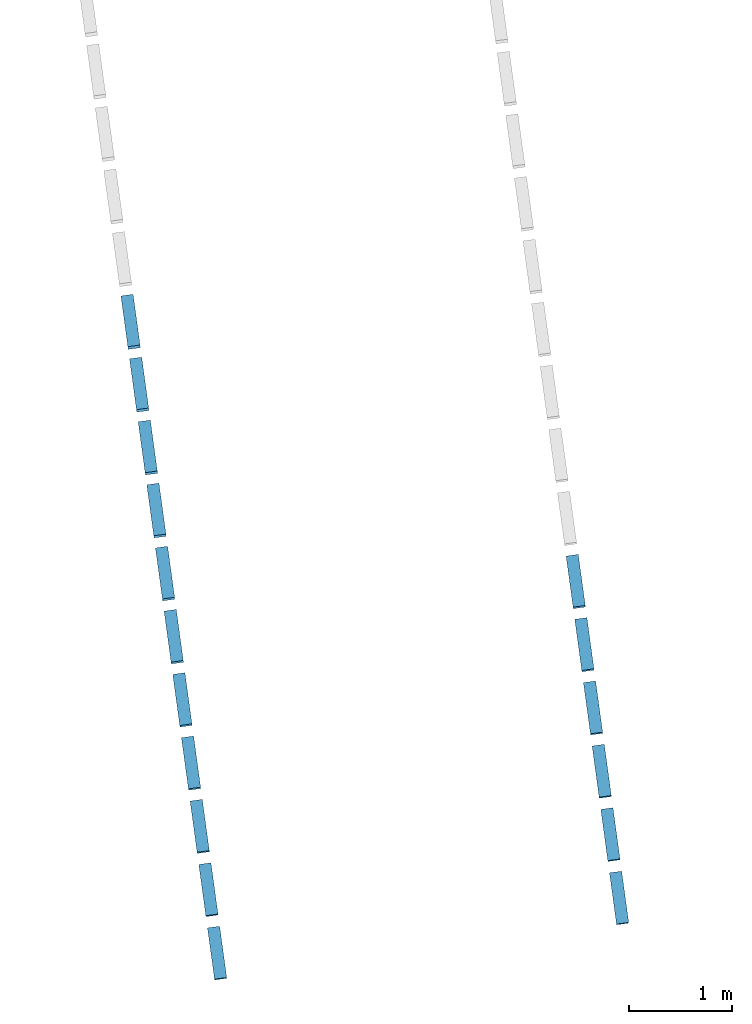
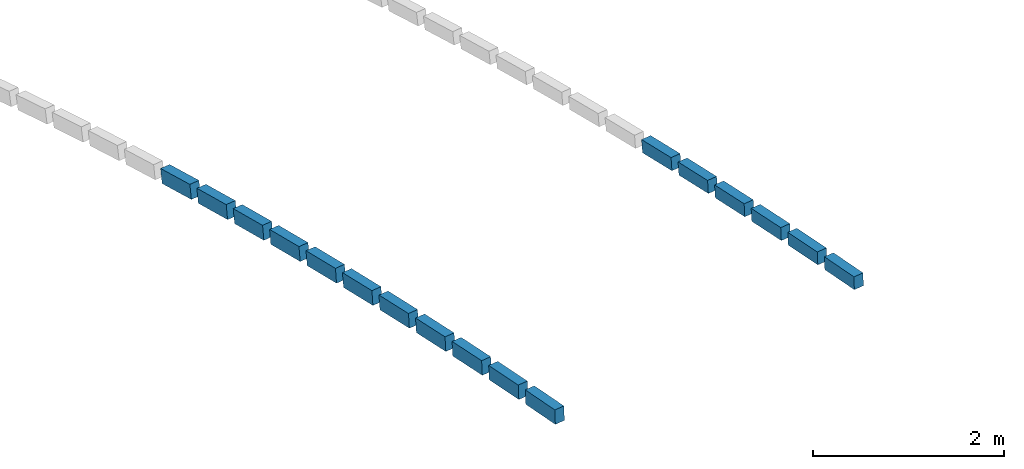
# One storey, part 1 of 6: 17 beams.
"""IFC2X3 building model written with IfcOpenShell, lengths in metres."""

import ifcopenshell
import ifcopenshell.guid

model = None  # the IFC model being written
_history = None  # IfcOwnerHistory: only IFC2X3 demands one
_inside = {}  # id of a spatial element -> (the spatial element, [elements in it])
_under = {}  # id of a project, library or spatial element -> (it, [spatial elements below it])
_declared = {}  # id of a project -> (the project, [libraries it declares])
_typed = {}  # id of a type object -> (the type object, [elements of that type])
_made_of = {}  # id of a material, layer set ... -> (it, [elements and type objects made of it])


def new_model(schema):
    """Start an empty IFC model of exactly this schema.

    Asked for "IFC4X3", IfcOpenShell would pick the latest addendum, in which some entities
    have other attributes; the version numbers below select the first issue.
    IFC2X3 requires an IfcOwnerHistory on every rooted entity: one is made here for all.
    """
    global model, _history
    if schema == "IFC4X3":
        model = ifcopenshell.file(schema_version=(4, 3, 0, 0))
    else:
        model = ifcopenshell.file(schema=schema)
    _inside.clear()
    _under.clear()
    _declared.clear()
    _typed.clear()
    _made_of.clear()
    _history = None
    if model.schema == "IFC2X3":
        org = make("IfcOrganization", Name="unknown")
        user = make(
            "IfcPersonAndOrganization",
            ThePerson=make("IfcPerson", FamilyName="unknown"),
            TheOrganization=org,
        )
        app = make(
            "IfcApplication",
            ApplicationDeveloper=org,
            Version="unknown",
            ApplicationFullName="unknown",
            ApplicationIdentifier="unknown",
        )
        _history = make(
            "IfcOwnerHistory",
            OwningUser=user,
            OwningApplication=app,
            ChangeAction="ADDED",
            CreationDate=0,
        )
    return model


def make(cls, **values):
    """One entity of the class cls with the attributes given. An attribute that is None is left unset."""
    return model.create_entity(
        cls, **{name: value for name, value in values.items() if value is not None}
    )


def entity(cls, *values):
    """Any entity or typed value of the class cls, its attributes in the order of the schema. None: left unset."""
    e = model.create_entity(cls)
    for i, value in enumerate(values):
        if value is not None:
            e[i] = value
    return e


def rooted(cls, **values):
    """An entity with a GlobalId (a new one), such as an element, a storey or a relation."""
    return make(cls, GlobalId=ifcopenshell.guid.new(), OwnerHistory=_history, **values)


def si_unit(unit_type, name, prefix=None):
    """IfcSIUnit, for example si_unit("LENGTHUNIT", "METRE", prefix="MILLI")."""
    return make("IfcSIUnit", UnitType=unit_type, Prefix=prefix, Name=name)


def converted_unit(unit_type, name, factor, base, dimensions=None, offset=None):
    """IfcConversionBasedUnit, such as the inch: factor (a typed value) times the base unit."""
    return make(
        "IfcConversionBasedUnit"
        if offset is None
        else "IfcConversionBasedUnitWithOffset",
        ConversionOffset=offset,
        Dimensions=None
        if dimensions is None
        else entity("IfcDimensionalExponents", *dimensions),
        UnitType=unit_type,
        Name=name,
        ConversionFactor=make(
            "IfcMeasureWithUnit", ValueComponent=factor, UnitComponent=base
        ),
    )


def derived_unit(unit_type, elements):
    """IfcDerivedUnit: a product of units, each with its exponent."""
    return make(
        "IfcDerivedUnit",
        Elements=[
            make("IfcDerivedUnitElement", Unit=unit, Exponent=power)
            for unit, power in elements
        ],
        UnitType=unit_type,
    )


def money_unit(currency):
    """IfcMonetaryUnit."""
    return make("IfcMonetaryUnit", Currency=currency)


def assignment(units):
    """IfcUnitAssignment: the units of a project."""
    return None if units is None else make("IfcUnitAssignment", Units=units)


def point(xyz):
    """IfcCartesianPoint."""
    return None if xyz is None else make("IfcCartesianPoint", Coordinates=xyz)


def direction(xyz):
    """IfcDirection."""
    return None if xyz is None else make("IfcDirection", DirectionRatios=xyz)


def frame(location, z_axis=None, x_axis=None):
    """IfcAxis2Placement3D, a coordinate frame: its origin and axes. An axis left out is left unset."""
    return make(
        "IfcAxis2Placement3D",
        Location=point(location),
        Axis=direction(z_axis),
        RefDirection=direction(x_axis),
    )


def frame_2d(location, x_axis=None):
    """IfcAxis2Placement2D, a coordinate frame in the plane: its origin and x axis."""
    return make(
        "IfcAxis2Placement2D", Location=point(location), RefDirection=direction(x_axis)
    )


def origin_with_axes():
    """The frame at (0, 0, 0) with the z axis (0, 0, 1) and the x axis (1, 0, 0) written out."""
    return frame((0.0, 0.0, 0.0), z_axis=(0.0, 0.0, 1.0), x_axis=(1.0, 0.0, 0.0))


def place(relative_to, where):
    """IfcLocalPlacement: puts the frame where relative to a parent placement (None: the world)."""
    return make(
        "IfcLocalPlacement", PlacementRelTo=relative_to, RelativePlacement=where
    )


def context(
    kind, dimensions, precision=None, world=None, true_north=None, identifier=None
):
    """IfcGeometricRepresentationContext, for example the 3D "Model" context."""
    return make(
        "IfcGeometricRepresentationContext",
        ContextIdentifier=identifier,
        ContextType=kind,
        CoordinateSpaceDimension=dimensions,
        Precision=precision,
        WorldCoordinateSystem=world,
        TrueNorth=true_north,
    )


def subcontext(parent, identifier, kind, view, scale=None):
    """IfcGeometricRepresentationSubContext, for example "Body" below "Model"."""
    return make(
        "IfcGeometricRepresentationSubContext",
        ContextIdentifier=identifier,
        ContextType=kind,
        ParentContext=parent,
        TargetScale=scale,
        TargetView=view,
    )


def project(units=None, contexts=None):
    """IfcProject with its units and contexts."""
    return rooted(
        "IfcProject",
        Name="project",
        RepresentationContexts=contexts,
        UnitsInContext=assignment(units),
    )


def spatial(cls, under=None, at=None, **own):
    """A site, building, storey or space (cls), placed at a placement, below another one or the project."""
    s = rooted(cls, ObjectPlacement=at, **own)
    if under is not None:
        _under.setdefault(under.id(), (under, []))[1].append(s)
    return s


def profile(cls, at=None, kind="AREA", **sizes):
    """A parametric profile (cls). Its sizes go by their IFC names, for example OverallWidth=200.0."""
    return make(cls, ProfileType=kind, Position=at, **sizes)


def rectangle(**sizes):
    """IfcRectangleProfileDef."""
    return profile("IfcRectangleProfileDef", **sizes)


def extrude(swept, where, along, depth):
    """IfcExtrudedAreaSolid: the profile swept, set in the frame where, extruded along a direction by depth."""
    return make(
        "IfcExtrudedAreaSolid",
        SweptArea=swept,
        Position=where,
        ExtrudedDirection=direction(along),
        Depth=depth,
    )


def boolean(op, a, b):
    """IfcBooleanResult of two solids."""
    return make("IfcBooleanResult", Operator=op, FirstOperand=a, SecondOperand=b)


def faces_of(points, faces, orient=None, outer=None):
    """IfcFace entities. A face is a list of loops; a loop is a list of indices into points, from 0.

    orient and outer hold one flag for each loop. By default every Orientation is true, the
    first loop of a face is its IfcFaceOuterBound and the others are IfcFaceBound.
    """
    made = []
    for i, loops in enumerate(faces):
        bounds = []
        for j, loop in enumerate(loops):
            is_outer = j == 0 if outer is None else outer[i][j]
            bounds.append(
                make(
                    "IfcFaceOuterBound" if is_outer else "IfcFaceBound",
                    Bound=make("IfcPolyLoop", Polygon=[points[k] for k in loop]),
                    Orientation=True if orient is None else orient[i][j],
                )
            )
        made.append(make("IfcFace", Bounds=bounds))
    return made


def faceted_brep(points, faces, orient=None, outer=None, voids=None):
    """IfcFacetedBrep: a solid bounded by flat faces; with voids (closed shells), ...WithVoids."""
    shared = [point(p) for p in points]
    hull = make("IfcClosedShell", CfsFaces=faces_of(shared, faces, orient, outer))
    if voids is None:
        return make("IfcFacetedBrep", Outer=hull)
    return make(
        "IfcFacetedBrepWithVoids",
        Outer=hull,
        Voids=[
            make(cls, CfsFaces=faces_of(shared, fs, o, b)) for cls, fs, o, b in voids
        ],
    )


def shape(context_of_items, identifier, shape_type, items):
    """IfcShapeRepresentation: the items that make up one representation, for example the "Body"."""
    return make(
        "IfcShapeRepresentation",
        ContextOfItems=context_of_items,
        RepresentationIdentifier=identifier,
        RepresentationType=shape_type,
        Items=items,
    )


def material(Name=None, Category=None):
    """IfcMaterial."""
    return make("IfcMaterial", Name=Name, Category=Category)


def made_of(thing, what):
    """Note that an element or type object is made of a material, layer set ...; save() writes the relation."""
    if what is not None:
        _made_of.setdefault(what.id(), (what, []))[1].append(thing)
    return thing


def type_object(cls, material=None, **own):
    """A type object (cls), such as IfcWallType, which elements share."""
    return made_of(rooted(cls, **own), material)


def element(
    cls,
    number,
    at=None,
    inside=None,
    cuts=None,
    type_object=None,
    material=None,
    context=None,
    identifier="Body",
    shape_type=None,
    held_by="IfcProductDefinitionShape",
    body=None,
    shapes=None,
    **own,
):
    """One element of the class cls, such as IfcWall. Its Tag is "e" and its number.

    at: its placement. inside: the storey or other place that contains it. cuts: it is an
    opening in that element (IfcRelVoidsElement). A single representation is given by context,
    identifier, shape_type and body (its items); several are given by shapes. held_by: the class
    of the entity that holds the representations. save() writes the other relations.
    """
    e = rooted(cls, Tag="e%d" % number, ObjectPlacement=at, **own)
    if body is not None:
        shapes = [shape(context, identifier, shape_type, body)]
    if shapes is not None:
        e.Representation = make(held_by, Representations=shapes)
    if inside is not None:
        _inside.setdefault(inside.id(), (inside, []))[1].append(e)
    if cuts is not None:
        rooted(
            "IfcRelVoidsElement", RelatingBuildingElement=cuts, RelatedOpeningElement=e
        )
    if type_object is not None:
        _typed.setdefault(type_object.id(), (type_object, []))[1].append(e)
    return made_of(e, material)


def aggregate(whole, parts):
    """IfcRelAggregates: a whole, such as a stair, and the parts it consists of."""
    return rooted("IfcRelAggregates", RelatingObject=whole, RelatedObjects=parts)


def save(model, path):
    """Write the relations noted so far, then the file.

    IfcRelAggregates (storeys below a building ...), IfcRelContainedInSpatialStructure (elements
    in a storey), IfcRelDefinesByType, IfcRelAssociatesMaterial and IfcRelDeclares: one each for
    every whole, place, type object, material and project.
    """
    for whole, parts in _under.values():
        aggregate(whole, parts)
    for where, things in _inside.values():
        rooted(
            "IfcRelContainedInSpatialStructure",
            RelatedElements=things,
            RelatingStructure=where,
        )
    for kind, things in _typed.values():
        rooted("IfcRelDefinesByType", RelatedObjects=things, RelatingType=kind)
    for what, things in _made_of.values():
        rooted("IfcRelAssociatesMaterial", RelatedObjects=things, RelatingMaterial=what)
    for by, libraries in _declared.values():
        rooted("IfcRelDeclares", RelatingContext=by, RelatedDefinitions=libraries)
    model.write(path)


model = new_model("IFC2X3")

# Units and contexts
model_context = context("Model", 3, precision=1e-05, world=origin_with_axes(), true_north=direction((0.0, 1.0)))
body_context = subcontext(model_context, "Body", "Model", "MODEL_VIEW")
ifc_project = project(units=[si_unit("LENGTHUNIT", "METRE"), si_unit("AREAUNIT", "SQUARE_METRE"), si_unit("VOLUMEUNIT", "CUBIC_METRE"), converted_unit("PLANEANGLEUNIT", "DEGREE", entity("IfcPlaneAngleMeasure", 0.0174532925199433), si_unit("PLANEANGLEUNIT", "RADIAN"), dimensions=[0, 0, 0, 0, 0, 0, 0]), money_unit("EUR"), converted_unit("TIMEUNIT", "Year", entity("IfcTimeMeasure", 31557600.0), si_unit("TIMEUNIT", "SECOND"), dimensions=[0, 0, 1, 0, 0, 0, 0]), si_unit("MASSUNIT", "GRAM", prefix="KILO"), si_unit("THERMODYNAMICTEMPERATUREUNIT", "DEGREE_CELSIUS"), si_unit("LUMINOUSINTENSITYUNIT", "LUMEN"), si_unit("ENERGYUNIT", "JOULE", prefix="MEGA"), derived_unit("THERMALCONDUCTANCEUNIT", [(si_unit("POWERUNIT", "WATT"), 1), (si_unit("LENGTHUNIT", "METRE"), -1), (si_unit("THERMODYNAMICTEMPERATUREUNIT", "KELVIN"), -1)]), derived_unit("SPECIFICHEATCAPACITYUNIT", [(si_unit("ENERGYUNIT", "JOULE"), 1), (si_unit("MASSUNIT", "GRAM", prefix="KILO"), -1), (si_unit("THERMODYNAMICTEMPERATUREUNIT", "KELVIN"), -1)]), derived_unit("MASSDENSITYUNIT", [(si_unit("MASSUNIT", "GRAM", prefix="KILO"), 1), (si_unit("VOLUMEUNIT", "CUBIC_METRE"), -1)])], contexts=[model_context])

# Site, building, storey
site_placement = place(None, origin_with_axes())
site = spatial("IfcSite", under=ifc_project, at=site_placement, Name="Gelände", CompositionType="ELEMENT")
building_placement = place(site_placement, origin_with_axes())
building = spatial("IfcBuilding", under=site, at=building_placement, Name="Gebäude", CompositionType="ELEMENT")
storey_placement = place(building_placement, frame((0.0, 0.0, 9.9), z_axis=(0.0, 0.0, 1.0), x_axis=(1.0, 0.0, 0.0)))
storey = spatial("IfcBuildingStorey", under=building, at=storey_placement, Name="Dach", CompositionType="ELEMENT", Elevation=9.9)

# Beams
ifc_material = material(Name="Bauholz")
beam_type_1 = type_object("IfcBeamType", Name="Bauholz 120 x 160", PredefinedType="NOTDEFINED")
beam_1_placement = place(storey_placement, frame((90.33999929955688, -149.6727245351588, 0.515005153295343), z_axis=(0.0, 0.0, 1.0), x_axis=(-0.9907490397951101, -0.1357068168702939, 0.0)))
element("IfcBeam", 1, at=beam_1_placement, inside=storey, type_object=beam_type_1, material=ifc_material, Name="Unterzug-031", context=body_context, shape_type="CSG", body=[
    boolean("DIFFERENCE", boolean("DIFFERENCE", extrude(rectangle(XDim=0.16, YDim=0.12, at=frame_2d((-0.08, 0.0), x_axis=(1.0, 0.0))), frame((0.0, 0.0, 0.0), z_axis=(0.0, 0.9990217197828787, 0.04422220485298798), x_axis=(0.0, -0.04422220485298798, 0.9990217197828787)), (0.0, 0.0, 1.0), 0.5052408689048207), faceted_brep([(-0.05999999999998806, 0.0, 0.0), (-0.05999999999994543, 0.007509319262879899, -0.159824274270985), (-0.05999999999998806, 0.007075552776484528, -0.1598434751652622), (0.06000000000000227, 0.007509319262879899, -0.159824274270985), (0.0600000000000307, 0.0, 0.0), (0.06000000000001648, 0.007075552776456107, -0.1598434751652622)], [[[0, 1, 2]], [[3, 1, 0, 4]], [[1, 3, 5, 2]], [[4, 0, 2, 5]], [[3, 4, 5]]])), faceted_brep([(0.06000000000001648, 0.5116878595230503, -0.1375065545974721), (-0.06000000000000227, 0.5116878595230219, -0.1375065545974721), (-0.05999999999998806, 0.5118221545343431, -0.1375006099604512), (0.06000000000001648, 0.5118221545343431, -0.1375006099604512), (-0.05999999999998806, 0.504746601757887, 0.02234286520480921), (0.06000000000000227, 0.5047466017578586, 0.02234286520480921)], [[[0, 1, 2, 3]], [[4, 1, 0, 5]], [[1, 4, 2]], [[4, 5, 3, 2]], [[5, 0, 3]]])),
])
beam_2_placement = place(storey_placement, frame((90.25526688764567, -149.0541424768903, 0.4818232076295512), z_axis=(0.0, 0.0, 1.0), x_axis=(-0.9907490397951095, -0.1357068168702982, 0.0)))
element("IfcBeam", 2, at=beam_2_placement, inside=storey, type_object=beam_type_1, material=ifc_material, Name="Unterzug-031", context=body_context, shape_type="CSG", body=[
    boolean("DIFFERENCE", boolean("DIFFERENCE", extrude(rectangle(XDim=0.16, YDim=0.12, at=frame_2d((-0.08, 0.0), x_axis=(1.0, 0.0))), frame((0.0, 0.0, 0.0), z_axis=(0.0, 0.9985369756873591, 0.05407317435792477), x_axis=(0.0, -0.05407317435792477, 0.9985369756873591)), (0.0, 0.0, 1.0), 0.5052407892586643), faceted_brep([(-0.06000000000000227, 0.0, 0.0), (-0.06000000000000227, 0.00908526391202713, -0.1597424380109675), (-0.06000000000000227, 0.008651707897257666, -0.1597659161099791), (0.06000000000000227, 0.00908526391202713, -0.1597424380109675), (0.06000000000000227, 0.0, 0.0), (0.06000000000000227, 0.008651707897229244, -0.1597659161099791)], [[[0, 1, 2]], [[3, 1, 0, 4]], [[1, 3, 5, 2]], [[4, 0, 2, 5]], [[3, 4, 5]]])), faceted_brep([(0.06000000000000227, 0.5130190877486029, -0.1324532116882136), (-0.06000000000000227, 0.5130190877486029, -0.1324532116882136), (-0.06000000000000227, 0.5131533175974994, -0.1324459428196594), (0.05999999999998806, 0.513153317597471, -0.1324459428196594), (-0.06000000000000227, 0.5045016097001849, 0.02731997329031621), (0.06000000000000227, 0.504501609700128, 0.02731997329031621)], [[[0, 1, 2, 3]], [[4, 1, 0, 5]], [[1, 4, 2]], [[4, 5, 3, 2]], [[5, 0, 3]]])),
])
beam_3_placement = place(storey_placement, frame((90.17058618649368, -148.4359379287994, 0.4421023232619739), z_axis=(0.0, 0.0, 1.0), x_axis=(-0.9907490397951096, -0.1357068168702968, 0.0)))
element("IfcBeam", 3, at=beam_3_placement, inside=storey, type_object=beam_type_1, material=ifc_material, Name="Unterzug-031", context=body_context, shape_type="CSG", body=[
    boolean("DIFFERENCE", boolean("DIFFERENCE", extrude(rectangle(XDim=0.16, YDim=0.12, at=frame_2d((-0.08, 0.0), x_axis=(1.0, 0.0))), frame((0.0, 0.0, 0.0), z_axis=(0.0, 0.9979156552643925, 0.06453173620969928), x_axis=(0.0, -0.06453173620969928, 0.9979156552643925)), (0.0, 0.0, 1.0), 0.5052416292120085), faceted_brep([(-0.06000000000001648, 0.0, 0.0), (-0.06000000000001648, 0.01075836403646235, -0.1596384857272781), (-0.06000000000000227, 0.01032507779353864, -0.1596665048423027), (0.05999999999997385, 0.01075836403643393, -0.1596384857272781), (0.05999999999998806, 0.0, 0.0), (0.05999999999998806, 0.01032507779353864, -0.1596665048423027)], [[[0, 1, 2]], [[3, 1, 0, 4]], [[1, 3, 5, 2]], [[4, 0, 2, 5]], [[3, 4, 5]]])), faceted_brep([(0.05999999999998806, 0.5143794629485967, -0.1270710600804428), (-0.06000000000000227, 0.5143794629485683, -0.1270710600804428), (-0.06000000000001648, 0.5145136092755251, -0.1270623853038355), (0.05999999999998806, 0.5145136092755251, -0.1270623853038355), (-0.06000000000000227, 0.5041885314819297, 0.03260411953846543), (0.05999999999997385, 0.5041885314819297, 0.03260411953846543)], [[[0, 1, 2, 3]], [[4, 1, 0, 5]], [[1, 4, 2]], [[4, 5, 3, 2]], [[5, 0, 3]]])),
])
beam_4_placement = place(storey_placement, frame((90.08596251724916, -147.8181497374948, 0.3962608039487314), z_axis=(0.0, 0.0, 1.0), x_axis=(-0.9907490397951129, -0.1357068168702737, 0.0)))
element("IfcBeam", 4, at=beam_4_placement, inside=storey, type_object=beam_type_1, material=ifc_material, Name="Unterzug-031", context=body_context, shape_type="CSG", body=[
    boolean("DIFFERENCE", boolean("DIFFERENCE", extrude(rectangle(XDim=0.16, YDim=0.12, at=frame_2d((-0.08, 0.0), x_axis=(1.0, 0.0))), frame((0.0, 0.0, 0.0), z_axis=(0.0, 0.9972306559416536, 0.07437081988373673), x_axis=(0.0, -0.07437081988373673, 0.9972306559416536)), (0.0, 0.0, 1.0), 0.5052413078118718), faceted_brep([(-0.0600000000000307, 0.0, 0.0), (-0.06000000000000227, 0.0123323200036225, -0.1595246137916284), (-0.06000000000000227, 0.01189933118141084, -0.159556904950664), (0.05999999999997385, 0.01233232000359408, -0.1595246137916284), (0.06000000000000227, 0.0, 0.0), (0.05999999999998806, 0.01189933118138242, -0.159556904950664)], [[[0, 1, 2]], [[3, 1, 0, 4]], [[1, 3, 5, 2]], [[4, 0, 2, 5]], [[3, 4, 5]]])), faceted_brep([(0.05999999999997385, 0.5156073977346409, -0.1219916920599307), (-0.06000000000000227, 0.5156073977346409, -0.1219916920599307), (-0.06000000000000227, 0.5157414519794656, -0.1219816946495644), (0.05999999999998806, 0.5157414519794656, -0.1219816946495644), (-0.06000000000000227, 0.5038421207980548, 0.03757521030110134), (0.06000000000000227, 0.5038421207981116, 0.03757521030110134)], [[[0, 1, 2, 3]], [[4, 1, 0, 5]], [[1, 4, 2]], [[4, 5, 3, 2]], [[5, 0, 3]]])),
])
beam_5_placement = place(storey_placement, frame((90.00140662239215, -147.2008563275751, 0.3440173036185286), z_axis=(0.0, 0.0, 1.0), x_axis=(-0.9907490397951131, -0.1357068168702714, 0.0)))
element("IfcBeam", 5, at=beam_5_placement, inside=storey, type_object=beam_type_1, material=ifc_material, Name="Unterzug-031", context=body_context, shape_type="CSG", body=[
    boolean("DIFFERENCE", boolean("DIFFERENCE", extrude(rectangle(XDim=0.16, YDim=0.12, at=frame_2d((-0.08, 0.0), x_axis=(1.0, 0.0))), frame((0.0, 0.0, 0.0), z_axis=(0.0, 0.9964393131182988, 0.08431307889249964), x_axis=(0.0, -0.08431307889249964, 0.9964393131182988)), (0.0, 0.0, 1.0), 0.505244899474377), faceted_brep([(-0.05999999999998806, 0.0, 0.0), (-0.06000000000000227, 0.01392273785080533, -0.1593936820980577), (-0.05999999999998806, 0.01349009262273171, -0.1594302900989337), (0.06000000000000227, 0.01392273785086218, -0.1593936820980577), (0.06000000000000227, 0.0, 0.0), (0.06000000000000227, 0.01349009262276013, -0.1594302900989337)], [[[0, 1, 2]], [[3, 1, 0, 4]], [[1, 3, 5, 2]], [[4, 0, 2, 5]], [[3, 4, 5]]])), faceted_brep([(0.05999999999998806, 0.5168020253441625, -0.1168428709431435), (-0.06000000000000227, 0.5168020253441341, -0.1168428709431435), (-0.05999999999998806, 0.5169359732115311, -0.1168315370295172), (0.06000000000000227, 0.5169359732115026, -0.1168315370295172), (-0.05999999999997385, 0.5034458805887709, 0.04259875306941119), (0.06000000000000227, 0.5034458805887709, 0.04259875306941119)], [[[0, 1, 2, 3]], [[4, 1, 0, 5]], [[1, 4, 2]], [[4, 5, 3, 2]], [[5, 0, 3]]])),
])
beam_6_placement = place(storey_placement, frame((89.91692667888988, -146.5841173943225, 0.285480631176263), z_axis=(0.0, 0.0, 1.0), x_axis=(-0.9907490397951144, -0.1357068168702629, 0.0)))
element("IfcBeam", 6, at=beam_6_placement, inside=storey, type_object=beam_type_1, material=ifc_material, Name="Unterzug-031", context=body_context, shape_type="CSG", body=[
    boolean("DIFFERENCE", boolean("DIFFERENCE", extrude(rectangle(XDim=0.16, YDim=0.12, at=frame_2d((-0.08, 0.0), x_axis=(1.0, 0.0))), frame((0.0, 0.0, 0.0), z_axis=(0.0, 0.9955055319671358, 0.09470340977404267), x_axis=(0.0, -0.09470340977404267, 0.9955055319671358)), (0.0, 0.0, 1.0), 0.5052457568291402), faceted_brep([(-0.06000000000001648, 0.0, 0.0), (-0.06000000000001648, 0.01558478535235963, -0.159239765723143), (-0.06000000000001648, 0.01515254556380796, -0.1592808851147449), (0.05999999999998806, 0.01558478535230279, -0.159239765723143), (0.06000000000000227, 0.0, 0.0), (0.05999999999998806, 0.01515254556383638, -0.1592808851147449)], [[[0, 1, 2]], [[3, 1, 0, 4]], [[1, 3, 5, 2]], [[4, 0, 2, 5]], [[3, 4, 5]]])), faceted_brep([(0.05999999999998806, 0.5179936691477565, -0.111445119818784), (-0.06000000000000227, 0.517993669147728, -0.111445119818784), (-0.06000000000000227, 0.5181274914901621, -0.1114323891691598), (0.05999999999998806, 0.5181274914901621, -0.1114323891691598), (-0.06000000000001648, 0.5029749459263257, 0.04784849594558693), (0.05999999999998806, 0.5029749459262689, 0.04784849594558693)], [[[0, 1, 2, 3]], [[4, 1, 0, 5]], [[1, 4, 2]], [[4, 5, 3, 2]], [[5, 0, 3]]])),
])
beam_type_2 = type_object("IfcBeamType", Name="Bauholz 120 x 180", PredefinedType="NOTDEFINED")
beam_7_placement = place(storey_placement, frame((86.3619965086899, -150.2264973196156, 0.3352200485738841), z_axis=(0.0, 0.0, 1.0), x_axis=(-0.9907490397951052, -0.1357068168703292, 0.0)))
element("IfcBeam", 7, at=beam_7_placement, inside=storey, type_object=beam_type_2, material=ifc_material, Name="Unterzug-031", context=body_context, shape_type="CSG", body=[
    boolean("DIFFERENCE", boolean("DIFFERENCE", extrude(rectangle(XDim=0.18, YDim=0.12, at=frame_2d((0.09, -0.06), x_axis=(1.0, 0.0))), frame((0.0, -0.000804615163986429, -3.561836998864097e-05), z_axis=(0.0, 0.9990216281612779, 0.04422427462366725), x_axis=(0.0, -0.04422427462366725, 0.9990216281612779)), (0.0, 0.0, 1.0), 0.5053123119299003), faceted_brep([(-0.1199999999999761, -0.008745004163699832, 0.1797891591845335), (-0.1200000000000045, 0.0, 0.0), (-0.1199999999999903, -0.000804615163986, -3.561836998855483e-05), (-0.1200000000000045, -0.00876498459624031, 0.1797882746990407), (0.0, 0.0, 0.0), (0.0, -0.008745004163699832, 0.1797891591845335), (0.0, -0.0008046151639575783, -3.561836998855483e-05), (0.0, -0.00876498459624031, 0.1797882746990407)], [[[0, 1, 2, 3]], [[4, 1, 0, 5]], [[1, 4, 6, 2]], [[2, 6, 7, 3]], [[5, 0, 3, 7]], [[4, 5, 7, 6]]])), faceted_brep([(0.0, 0.50289483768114, 0.02226193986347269), (-0.1199999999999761, 0.50289483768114, 0.02226193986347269), (-0.1200000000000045, 0.5040133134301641, 0.02231145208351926), (0.0, 0.5040133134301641, 0.02231145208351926), (-0.1199999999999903, 0.4960329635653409, 0.2021344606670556), (0.0, 0.4960329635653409, 0.2021344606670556), (-0.1200000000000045, 0.4960529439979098, 0.2021353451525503), (0.0, 0.4960529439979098, 0.2021353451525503)], [[[0, 1, 2, 3]], [[4, 1, 0, 5]], [[1, 4, 6, 2]], [[7, 3, 2, 6]], [[5, 0, 3, 7]], [[4, 5, 7, 6]]])),
])
beam_8_placement = place(storey_placement, frame((86.27751953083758, -149.6097800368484, 0.3021400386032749), z_axis=(0.0, 0.0, 1.0), x_axis=(-0.990749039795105, -0.1357068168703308, 0.0)))
element("IfcBeam", 8, at=beam_8_placement, inside=storey, type_object=beam_type_2, material=ifc_material, Name="Unterzug-031", context=body_context, shape_type="CSG", body=[
    boolean("DIFFERENCE", boolean("DIFFERENCE", extrude(rectangle(XDim=0.18, YDim=0.12, at=frame_2d((0.09, -0.06), x_axis=(1.0, 0.0))), frame((0.0, -0.0008042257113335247, -4.353430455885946e-05), z_axis=(0.0, 0.998538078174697, 0.0540528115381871), x_axis=(0.0, -0.0540528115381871, 0.998538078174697)), (0.0, 0.0, 1.0), 0.5051237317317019), faceted_brep([(-0.1199999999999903, -0.01051376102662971, 0.1796944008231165), (-0.1199999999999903, 0.0, 0.0), (-0.1200000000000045, -0.0008042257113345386, -4.353430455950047e-05), (-0.1200000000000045, -0.01053373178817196, 0.1796933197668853), (0.0, 0.0, 0.0), (0.0, -0.01051376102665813, 0.1796944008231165), (0.0, -0.0008042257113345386, -4.353430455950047e-05), (0.0, -0.01053373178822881, 0.1796933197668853)], [[[0, 1, 2, 3]], [[4, 1, 0, 5]], [[1, 4, 6, 2]], [[2, 6, 7, 3]], [[5, 0, 3, 7]], [[4, 5, 7, 6]]])), faceted_brep([(0.0, 0.5026199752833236, 0.02720779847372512), (-0.1200000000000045, 0.5026199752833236, 0.02720779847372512), (-0.1200000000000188, 0.5035810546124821, 0.02725982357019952), (0.0, 0.5035810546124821, 0.02725982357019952), (-0.1200000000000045, 0.4938315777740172, 0.2069955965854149), (0.0, 0.493831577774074, 0.2069955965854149), (-0.1200000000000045, 0.4938515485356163, 0.2069966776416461), (0.0, 0.4938515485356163, 0.2069966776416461)], [[[0, 1, 2, 3]], [[4, 1, 0, 5]], [[1, 4, 6, 2]], [[7, 3, 2, 6]], [[5, 0, 3, 7]], [[4, 5, 7, 6]]])),
])
beam_9_placement = place(storey_placement, frame((86.19307283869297, -148.9932838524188, 0.2625299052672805), z_axis=(0.0, 0.0, 1.0), x_axis=(-0.9907490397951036, -0.1357068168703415, 0.0)))
element("IfcBeam", 9, at=beam_9_placement, inside=storey, type_object=beam_type_2, material=ifc_material, Name="Unterzug-031", context=body_context, shape_type="CSG", body=[
    boolean("DIFFERENCE", boolean("DIFFERENCE", extrude(rectangle(XDim=0.18, YDim=0.12, at=frame_2d((0.09, -0.06), x_axis=(1.0, 0.0))), frame((0.0, -0.000646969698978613, -4.18381987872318e-05), z_axis=(0.0, 0.9979155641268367, 0.06453314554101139), x_axis=(0.0, -0.06453314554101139, 0.9979155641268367)), (0.0, 0.0, 1.0), 0.5050623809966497), faceted_brep([(-0.1200000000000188, -0.01224297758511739, 0.1795842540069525), (-0.1200000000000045, 0.0, 0.0), (-0.1200000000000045, -0.0006469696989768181, -4.183819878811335e-05), (-0.1200000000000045, -0.01226293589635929, 0.1795829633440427), (0.0, 0.0, 0.0), (0.0, -0.01224297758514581, 0.1795842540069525), (0.0, -0.0006469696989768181, -4.183819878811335e-05), (0.0, -0.01226293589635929, 0.1795829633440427)], [[[0, 1, 2, 3]], [[4, 1, 0, 5]], [[1, 4, 6, 2]], [[2, 6, 7, 3]], [[5, 0, 3, 7]], [[4, 5, 7, 6]]])), faceted_brep([(0.0, 0.5024648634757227, 0.03249336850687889), (-0.1200000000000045, 0.5024648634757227, 0.03249336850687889), (-0.1200000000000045, 0.5033626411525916, 0.0325514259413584), (0.0, 0.5033626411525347, 0.0325514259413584), (-0.120000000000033, 0.4917267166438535, 0.2121749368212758), (0.0, 0.4917267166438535, 0.2121749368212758), (-0.1199999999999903, 0.4917466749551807, 0.2121762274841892), (0.0, 0.4917466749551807, 0.2121762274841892)], [[[0, 1, 2, 3]], [[4, 1, 0, 5]], [[1, 4, 6, 2]], [[7, 3, 2, 6]], [[5, 0, 3, 7]], [[4, 5, 7, 6]]])),
])
beam_10_placement = place(storey_placement, frame((86.1087297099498, -148.3775441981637, 0.216843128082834), z_axis=(0.0, 0.0, 1.0), x_axis=(-0.9907490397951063, -0.1357068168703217, 0.0)))
element("IfcBeam", 10, at=beam_10_placement, inside=storey, type_object=beam_type_2, material=ifc_material, Name="Unterzug-031", context=body_context, shape_type="CSG", body=[
    boolean("DIFFERENCE", boolean("DIFFERENCE", extrude(rectangle(XDim=0.18, YDim=0.12, at=frame_2d((0.09, -0.06), x_axis=(1.0, 0.0))), frame((0.0, -0.0008031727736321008, -5.989763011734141e-05), z_axis=(0.0, 0.9972307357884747, 0.07436974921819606), x_axis=(0.0, -0.07436974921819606, 0.9972307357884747)), (0.0, 0.0, 1.0), 0.5049357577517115), faceted_brep([(-0.1200000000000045, -0.01416978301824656, 0.1794431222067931), (-0.1200000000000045, 0.0, 0.0), (-0.1200000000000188, -0.0008031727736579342, -5.989763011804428e-05), (-0.1200000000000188, -0.01418972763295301, 0.1794416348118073), (0.0, 0.0, 0.0), (0.0, -0.01416978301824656, 0.1794431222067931), (0.0, -0.0008031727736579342, -5.989763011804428e-05), (0.0, -0.01418972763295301, 0.1794416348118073)], [[[0, 1, 2, 3]], [[4, 1, 0, 5]], [[1, 4, 6, 2]], [[2, 6, 7, 3]], [[5, 0, 3, 7]], [[4, 5, 7, 6]]])), faceted_brep([(0.0, 0.5017744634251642, 0.03742046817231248), (-0.1200000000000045, 0.5017744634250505, 0.03742046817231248), (-0.1200000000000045, 0.5027342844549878, 0.03749204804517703), (0.0, 0.5027342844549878, 0.03749204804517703), (-0.1200000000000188, 0.4893277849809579, 0.2169920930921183), (0.0, 0.4893277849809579, 0.2169920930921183), (-0.1200000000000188, 0.4893477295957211, 0.2169935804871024), (0.0, 0.4893477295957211, 0.2169935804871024)], [[[0, 1, 2, 3]], [[4, 1, 0, 5]], [[1, 4, 6, 2]], [[7, 3, 2, 6]], [[5, 0, 3, 7]], [[4, 5, 7, 6]]])),
])
beam_11_placement = place(storey_placement, frame((86.02438622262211, -147.7618014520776, 0.1647327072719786), z_axis=(0.0, 0.0, 1.0), x_axis=(-0.9907490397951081, -0.1357068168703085, 0.0)))
element("IfcBeam", 11, at=beam_11_placement, inside=storey, type_object=beam_type_2, material=ifc_material, Name="Unterzug-031", context=body_context, shape_type="CSG", body=[
    boolean("DIFFERENCE", boolean("DIFFERENCE", extrude(rectangle(XDim=0.18, YDim=0.12, at=frame_2d((0.09, -0.06), x_axis=(1.0, 0.0))), frame((0.0, -0.0008025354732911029, -6.790467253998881e-05), z_axis=(0.0, 0.9964394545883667, 0.08431140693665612), x_axis=(0.0, -0.08431140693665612, 0.9964394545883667)), (0.0, 0.0, 1.0), 0.5051302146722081), faceted_brep([(-0.1200000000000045, -0.01595865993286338, 0.1792928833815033), (-0.1200000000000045, 0.0, 0.0), (-0.1200000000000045, -0.000802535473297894, -6.790467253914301e-05), (-0.1200000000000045, -0.01597858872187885, 0.1792911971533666), (0.0, 0.0, 0.0), (0.0, -0.01595865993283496, 0.1792928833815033), (0.0, -0.000802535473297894, -6.790467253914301e-05), (0.0, -0.01597858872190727, 0.1792911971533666)], [[[0, 1, 2, 3]], [[4, 1, 0, 5]], [[1, 4, 6, 2]], [[2, 6, 7, 3]], [[5, 0, 3, 7]], [[4, 5, 7, 6]]])), faceted_brep([(0.0, 0.5018831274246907, 0.04246567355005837), (-0.1200000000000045, 0.5018831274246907, 0.04246567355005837), (-0.1200000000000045, 0.5025291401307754, 0.04252033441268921), (0.0, 0.5025291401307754, 0.04252033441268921), (-0.1200000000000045, 0.4873331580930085, 0.2218777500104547), (0.0, 0.4873331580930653, 0.2218777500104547), (-0.1200000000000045, 0.4873530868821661, 0.221879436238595), (0.0, 0.4873530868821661, 0.221879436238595)], [[[0, 1, 2, 3]], [[4, 1, 0, 5]], [[1, 4, 6, 2]], [[7, 3, 2, 6]], [[5, 0, 3, 7]], [[4, 5, 7, 6]]])),
])
beam_12_placement = place(storey_placement, frame((85.94015246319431, -147.14685976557, 0.1063675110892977), z_axis=(0.0, 0.0, 1.0), x_axis=(-0.9907490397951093, -0.1357068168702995, 0.0)))
element("IfcBeam", 12, at=beam_12_placement, inside=storey, type_object=beam_type_2, material=ifc_material, Name="Unterzug-031", context=body_context, shape_type="CSG", body=[
    boolean("DIFFERENCE", boolean("DIFFERENCE", extrude(rectangle(XDim=0.18, YDim=0.12, at=frame_2d((0.09, -0.06), x_axis=(1.0, 0.0))), frame((0.0, -0.0008017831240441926, -7.627615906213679e-05), z_axis=(0.0, 0.9955053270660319, 0.09470556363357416), x_axis=(0.0, -0.09470556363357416, 0.9955053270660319)), (0.0, 0.0, 1.0), 0.5048773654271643), faceted_brep([(-0.1200000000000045, -0.01782887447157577, 0.1791165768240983), (-0.1200000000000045, 0.0, 0.0), (-0.1200000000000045, -0.0008017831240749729, -7.627615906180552e-05), (-0.1199999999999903, -0.01784878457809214, 0.1791146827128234), (0.0, 0.0, 0.0), (0.0, -0.01782887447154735, 0.1791165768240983), (0.0, -0.0008017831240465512, -7.627615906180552e-05), (0.0, -0.01784878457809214, 0.1791146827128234)], [[[0, 1, 2, 3]], [[4, 1, 0, 5]], [[1, 4, 6, 2]], [[2, 6, 7, 3]], [[5, 0, 3, 7]], [[4, 5, 7, 6]]])), faceted_brep([(0.0, 0.5011609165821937, 0.04767701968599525), (-0.1200000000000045, 0.5011609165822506, 0.04767701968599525), (-0.1200000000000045, 0.501806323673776, 0.04773841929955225), (0.0, 0.5018063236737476, 0.04773841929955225), (-0.1200000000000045, 0.4847394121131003, 0.2269274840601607), (0.0, 0.4847394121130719, 0.2269274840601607), (-0.1200000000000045, 0.484759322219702, 0.2269293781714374), (0.0, 0.484759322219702, 0.2269293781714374)], [[[0, 1, 2, 3]], [[4, 1, 0, 5]], [[1, 4, 6, 2]], [[7, 3, 2, 6]], [[5, 0, 3, 7]], [[4, 5, 7, 6]]])),
])
beam_13_placement = place(storey_placement, frame((85.85601470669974, -146.5326189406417, 0.04176100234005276), z_axis=(0.0, 0.0, 1.0), x_axis=(-0.990749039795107, -0.1357068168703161, 0.0)))
element("IfcBeam", 13, at=beam_13_placement, inside=storey, type_object=beam_type_2, material=ifc_material, Name="Unterzug-031", context=body_context, shape_type="CSG", body=[
    boolean("DIFFERENCE", boolean("DIFFERENCE", extrude(rectangle(XDim=0.18, YDim=0.12, at=frame_2d((0.09, -0.06), x_axis=(1.0, 0.0))), frame((0.0, -0.000800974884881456, -8.434135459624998e-05), z_axis=(0.0, 0.9945018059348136, 0.1047194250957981), x_axis=(0.0, -0.1047194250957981, 0.9945018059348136)), (0.0, 0.0, 1.0), 0.504788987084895), faceted_brep([(-0.1199999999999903, -0.01963058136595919, 0.1789280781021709), (-0.1200000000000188, 0.0, 0.0), (-0.1199999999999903, -0.0008009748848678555, -8.434135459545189e-05), (-0.1199999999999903, -0.01965047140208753, 0.1789259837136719), (0.0, 0.0, 0.0), (0.0, -0.01963058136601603, 0.1789280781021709), (0.0, -0.0008009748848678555, -8.434135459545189e-05), (0.0, -0.01965047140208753, 0.1789259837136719)], [[[0, 1, 2, 3]], [[4, 1, 0, 5]], [[1, 4, 6, 2]], [[2, 6, 7, 3]], [[5, 0, 3, 7]], [[4, 5, 7, 6]]])), faceted_brep([(0.0, 0.5005678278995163, 0.05270897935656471), (-0.1200000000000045, 0.5005678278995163, 0.05270897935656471), (-0.1199999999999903, 0.5012125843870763, 0.05277687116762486), (0.0, 0.5012125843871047, 0.05277687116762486), (-0.1200000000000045, 0.4823431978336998, 0.231785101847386), (0.0, 0.4823431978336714, 0.231785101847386), (-0.1199999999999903, 0.4823630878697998, 0.2317871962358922), (0.0, 0.4823630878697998, 0.2317871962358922)], [[[0, 1, 2, 3]], [[4, 1, 0, 5]], [[1, 4, 6, 2]], [[7, 3, 2, 6]], [[5, 0, 3, 7]], [[4, 5, 7, 6]]])),
])
beam_14_placement = place(storey_placement, frame((85.7719548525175, -145.918946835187, -0.02927427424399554), z_axis=(0.0, 0.0, 1.0), x_axis=(-0.9907490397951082, -0.1357068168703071, 0.0)))
element("IfcBeam", 14, at=beam_14_placement, inside=storey, type_object=beam_type_2, material=ifc_material, Name="Unterzug-031", context=body_context, shape_type="CSG", body=[
    boolean("DIFFERENCE", boolean("DIFFERENCE", extrude(rectangle(XDim=0.18, YDim=0.12, at=frame_2d((0.09, -0.06), x_axis=(1.0, 0.0))), frame((0.0, -0.0008000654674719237, -9.257147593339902e-05), z_axis=(0.0, 0.9933726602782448, 0.1149380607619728), x_axis=(0.0, -0.1149380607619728, 0.9933726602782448)), (0.0, 0.0, 1.0), 0.5049175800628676), faceted_brep([(-0.1199999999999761, -0.02146904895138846, 0.1787168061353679), (-0.1200000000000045, 0.0, 0.0), (-0.1200000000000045, -0.0008000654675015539, -9.25714759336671e-05), (-0.1200000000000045, -0.02148891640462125, 0.178714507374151), (0.0, 0.0, 0.0), (0.0, -0.02146904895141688, 0.1787168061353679), (0.0, -0.0008000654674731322, -9.25714759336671e-05), (0.0, -0.02148891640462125, 0.178714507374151)], [[[0, 1, 2, 3]], [[4, 1, 0, 5]], [[1, 4, 6, 2]], [[2, 6, 7, 3]], [[5, 0, 3, 7]], [[4, 5, 7, 6]]])), faceted_brep([(0.0, 0.5001272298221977, 0.05786715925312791), (-0.1200000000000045, 0.5001272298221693, 0.05786715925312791), (-0.1200000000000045, 0.5007712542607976, 0.05794167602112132), (0.0, 0.500771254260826, 0.05794167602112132), (-0.1200000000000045, 0.4800625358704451, 0.2367464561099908), (0.0, 0.4800625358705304, 0.2367464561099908), (-0.1200000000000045, 0.4800824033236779, 0.2367487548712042), (0.0, 0.4800824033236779, 0.2367487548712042)], [[[0, 1, 2, 3]], [[4, 1, 0, 5]], [[1, 4, 6, 2]], [[7, 3, 2, 6]], [[5, 0, 3, 7]], [[4, 5, 7, 6]]])),
])
beam_15_placement = place(storey_placement, frame((85.60414971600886, -144.6938991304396, -0.1898359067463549), z_axis=(0.0, 0.0, 1.0), x_axis=(-0.9907490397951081, -0.1357068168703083, 0.0)))
element("IfcBeam", 15, at=beam_15_placement, inside=storey, type_object=beam_type_2, material=ifc_material, Name="Unterzug-031", context=body_context, shape_type="CSG", body=[
    boolean("DIFFERENCE", boolean("DIFFERENCE", extrude(rectangle(XDim=0.18, YDim=0.12, at=frame_2d((0.09, -0.06), x_axis=(1.0, 0.0))), frame((0.0, -0.0007980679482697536, -0.0001084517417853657), z_axis=(0.0, 0.9908925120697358, 0.1346552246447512), x_axis=(0.0, -0.1346552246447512, 0.9908925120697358)), (0.0, 0.0, 1.0), 0.5049843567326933), faceted_brep([(-0.1199999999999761, -0.02501619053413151, 0.178254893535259), (-0.1199999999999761, 0.0, 0.0), (-0.1199999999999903, -0.0007980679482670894, -0.0001084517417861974), (-0.1199999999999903, -0.0250360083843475, 0.1782522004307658), (0.0, 0.0, 0.0), (0.0, -0.02501619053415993, 0.178254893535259), (0.0, -0.0007980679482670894, -0.0001084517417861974), (0.0, -0.0250360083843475, 0.1782522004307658)], [[[0, 1, 2, 3]], [[4, 1, 0, 5]], [[1, 4, 6, 2]], [[2, 6, 7, 3]], [[5, 0, 3, 7]], [[4, 5, 7, 6]]])), faceted_brep([(0.0, 0.4989447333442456, 0.06780303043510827), (-0.1200000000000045, 0.4989447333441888, 0.06780303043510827), (-0.1200000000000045, 0.4995871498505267, 0.06789033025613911), (0.0, 0.4995871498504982, 0.06789033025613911), (-0.1200000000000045, 0.4753293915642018, 0.2462482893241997), (0.0, 0.475329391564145, 0.2462482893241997), (-0.1199999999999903, 0.4753492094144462, 0.2462509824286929), (0.0, 0.4753492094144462, 0.2462509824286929)], [[[0, 1, 2, 3]], [[4, 1, 0, 5]], [[1, 4, 6, 2]], [[7, 3, 2, 6]], [[5, 0, 3, 7]], [[4, 5, 7, 6]]])),
])
beam_16_placement = place(storey_placement, frame((85.52040921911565, -144.0825584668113, -0.2796270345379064), z_axis=(0.0, 0.0, 1.0), x_axis=(-0.9907490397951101, -0.1357068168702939, 0.0)))
element("IfcBeam", 16, at=beam_16_placement, inside=storey, type_object=beam_type_2, material=ifc_material, Name="Unterzug-031", context=body_context, shape_type="CSG", body=[
    boolean("DIFFERENCE", boolean("DIFFERENCE", extrude(rectangle(XDim=0.18, YDim=0.12, at=frame_2d((0.09, -0.06), x_axis=(1.0, 0.0))), frame((0.0, -0.0006414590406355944, -9.407723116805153e-05), z_axis=(0.0, 0.9894156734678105, 0.1451090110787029), x_axis=(0.0, -0.1451090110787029, 0.9894156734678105)), (0.0, 0.0, 1.0), 0.5048464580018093), faceted_brep([(-0.1200000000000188, -0.0267412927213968, 0.1780036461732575), (-0.1200000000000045, 0.0, 0.0), (-0.1200000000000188, -0.0006414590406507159, -9.407723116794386e-05), (-0.1200000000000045, -0.02676108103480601, 0.1780007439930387), (0.0, 0.0, 0.0), (0.0, -0.0267412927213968, 0.1780036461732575), (0.0, -0.0006414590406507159, -9.407723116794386e-05), (0.0, -0.02676108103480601, 0.1780007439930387)], [[[0, 1, 2, 3]], [[4, 1, 0, 5]], [[1, 4, 6, 2]], [[2, 6, 7, 3]], [[5, 0, 3, 7]], [[4, 5, 7, 6]]])), faceted_brep([(0.0, 0.4982200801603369, 0.07306961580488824), (-0.1200000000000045, 0.4982200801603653, 0.07306961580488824), (-0.1200000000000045, 0.4988615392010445, 0.07316369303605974), (0.0, 0.4988615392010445, 0.07316369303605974), (-0.1199999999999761, 0.4727221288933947, 0.2512556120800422), (0.0, 0.4727221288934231, 0.2512556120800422), (-0.1199999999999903, 0.4727419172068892, 0.2512585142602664), (0.0, 0.4727419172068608, 0.2512585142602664)], [[[0, 1, 2, 3]], [[4, 1, 0, 5]], [[1, 4, 6, 2]], [[7, 3, 2, 6]], [[5, 0, 3, 7]], [[4, 5, 7, 6]]])),
])
beam_17_placement = place(storey_placement, frame((85.68800959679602, -145.306111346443, -0.1064527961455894), z_axis=(0.0, 0.0, 1.0), x_axis=(-0.9907490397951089, -0.1357068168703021, 0.0)))
element("IfcBeam", 17, at=beam_17_placement, inside=storey, type_object=beam_type_2, material=ifc_material, Name="Unterzug-031", context=body_context, shape_type="CSG", body=[
    boolean("DIFFERENCE", boolean("DIFFERENCE", extrude(rectangle(XDim=0.18, YDim=0.12, at=frame_2d((0.09, -0.06), x_axis=(1.0, 0.0))), frame((0.0, -0.0007991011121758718, -0.0001005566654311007), z_axis=(0.0, 0.9921753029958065, 0.1248525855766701), x_axis=(0.0, -0.1248525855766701, 0.9921753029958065)), (0.0, 0.0, 1.0), 0.5048095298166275), faceted_brep([(-0.1199999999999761, -0.02325272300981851, 0.1784934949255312), (-0.1200000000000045, 0.0, 0.0), (-0.1200000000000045, -0.0007991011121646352, -0.0001005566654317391), (-0.1199999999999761, -0.02327256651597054, 0.1784909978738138), (0.0, 0.0, 0.0), (0.0, -0.02325272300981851, 0.1784934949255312), (0.0, -0.0007991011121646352, -0.0001005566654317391), (0.0, -0.02327256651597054, 0.1784909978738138)], [[[0, 1, 2, 3]], [[4, 1, 0, 5]], [[1, 4, 6, 2]], [[2, 6, 7, 3]], [[5, 0, 3, 7]], [[4, 5, 7, 6]]])), faceted_brep([(0.0, 0.4994171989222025, 0.0628452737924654), (-0.1199999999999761, 0.4994171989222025, 0.0628452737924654), (-0.1199999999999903, 0.5000604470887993, 0.06292621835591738), (0.0, 0.5000604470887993, 0.06292621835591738), (-0.1199999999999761, 0.4775671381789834, 0.2415152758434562), (0.0, 0.4775671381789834, 0.2415152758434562), (-0.1200000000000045, 0.4775869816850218, 0.241517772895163), (0.0, 0.4775869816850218, 0.241517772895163)], [[[0, 1, 2, 3]], [[4, 1, 0, 5]], [[1, 4, 6, 2]], [[7, 3, 2, 6]], [[5, 0, 3, 7]], [[4, 5, 7, 6]]])),
])

save(model, "model.ifc")
